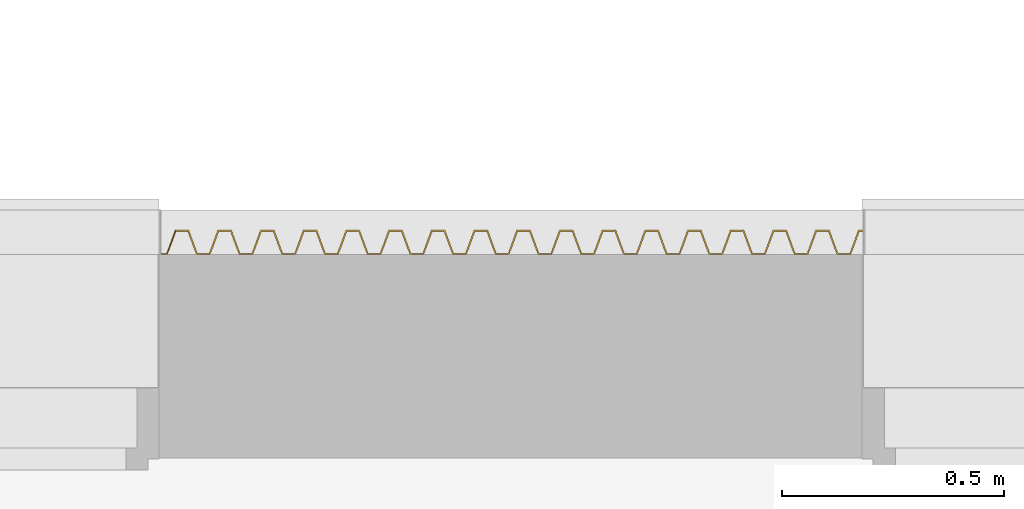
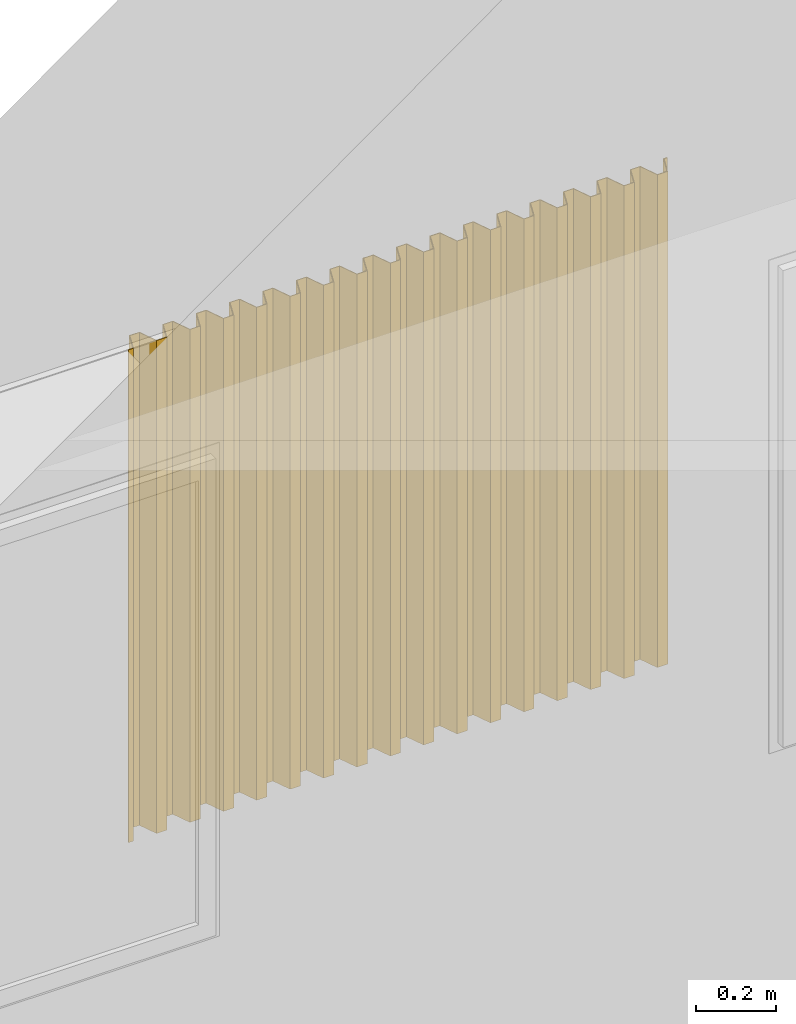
# One storey, part 86 of 91: 1 covering.
"""IFC2X3 building model written with IfcOpenShell, lengths in metres."""

from ifc_helpers import new_model, entity, si_unit, converted_unit, derived_unit, money_unit, direction, frame, origin_with_axes, place, context, subcontext, project, spatial, faceted_brep, material, type_object, element, save


model = new_model("IFC2X3")

# Units and contexts
model_context = context("Model", 3, precision=1e-05, world=origin_with_axes(), true_north=direction((0.0, 1.0)))
body_context = subcontext(model_context, "Body", "Model", "MODEL_VIEW")
ifc_project = project(units=[si_unit("LENGTHUNIT", "METRE"), si_unit("AREAUNIT", "SQUARE_METRE"), si_unit("VOLUMEUNIT", "CUBIC_METRE"), converted_unit("PLANEANGLEUNIT", "DEGREE", entity("IfcPlaneAngleMeasure", 0.0174532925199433), si_unit("PLANEANGLEUNIT", "RADIAN"), dimensions=[0, 0, 0, 0, 0, 0, 0]), money_unit("EUR"), converted_unit("TIMEUNIT", "Year", entity("IfcTimeMeasure", 31557600.0), si_unit("TIMEUNIT", "SECOND"), dimensions=[0, 0, 1, 0, 0, 0, 0]), si_unit("MASSUNIT", "GRAM", prefix="KILO"), si_unit("THERMODYNAMICTEMPERATUREUNIT", "DEGREE_CELSIUS"), si_unit("LUMINOUSINTENSITYUNIT", "LUMEN"), si_unit("ENERGYUNIT", "JOULE", prefix="MEGA"), derived_unit("THERMALCONDUCTANCEUNIT", [(si_unit("POWERUNIT", "WATT"), 1), (si_unit("LENGTHUNIT", "METRE"), -1), (si_unit("THERMODYNAMICTEMPERATUREUNIT", "KELVIN"), -1)]), derived_unit("SPECIFICHEATCAPACITYUNIT", [(si_unit("ENERGYUNIT", "JOULE"), 1), (si_unit("MASSUNIT", "GRAM", prefix="KILO"), -1), (si_unit("THERMODYNAMICTEMPERATUREUNIT", "KELVIN"), -1)]), derived_unit("MASSDENSITYUNIT", [(si_unit("MASSUNIT", "GRAM", prefix="KILO"), 1), (si_unit("VOLUMEUNIT", "CUBIC_METRE"), -1)])], contexts=[model_context])

# Site, building, storey
site_placement = place(None, origin_with_axes())
site = spatial("IfcSite", under=ifc_project, at=site_placement, Name="Site", CompositionType="ELEMENT")
building_placement = place(site_placement, origin_with_axes())
building = spatial("IfcBuilding", under=site, at=building_placement, Name="Bâtiment", CompositionType="ELEMENT")
storey_placement = place(building_placement, origin_with_axes())
storey = spatial("IfcBuildingStorey", under=building, at=storey_placement, Name="RDC", CompositionType="ELEMENT", Elevation=0.0)

# Covering
ifc_material = material(Name="Métal - Acier")
covering_type = type_object("IfcCoveringType", Name="Tôle profilée 27", PredefinedType="NOTDEFINED")
covering_placement = place(storey_placement, frame((56.51607972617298, -10.7997362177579, 1.00281176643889), z_axis=(0.0, 0.0, 1.0), x_axis=(-3.309421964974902e-07, -0.9999999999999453, 0.0)))
element("IfcCovering", 1, at=covering_placement, inside=storey, type_object=covering_type, material=ifc_material, Name="PLACE STATIONNEMENT PMR", PredefinedType="NOTDEFINED", context=body_context, shape_type="Brep", body=[
    faceted_brep([(0.0, 0.0, 0.0), (0.0, 0.01500000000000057, 0.0), (0.0, 0.01500000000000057, 1.498499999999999), (0.0, 0.0, 1.498499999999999), (-0.002, 0.0, 0.0), (-0.001999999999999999, 0.01361121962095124, 0.0), (-0.05399999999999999, 0.03299999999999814, 0.0), (-0.05399999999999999, 0.06299999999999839, 0.0), (-0.001999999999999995, 0.08238878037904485, 0.0), (-0.001999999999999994, 0.1096112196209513, 0.0), (-0.05399999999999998, 0.1289999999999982, 0.0), (-0.05399999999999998, 0.1589999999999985, 0.0), (-0.001999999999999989, 0.1783887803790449, 0.0), (-0.001999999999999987, 0.2056112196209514, 0.0), (-0.05399999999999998, 0.2249999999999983, 0.0), (-0.05399999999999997, 0.2549999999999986, 0.0), (-0.001999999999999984, 0.274388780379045, 0.0), (-0.001999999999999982, 0.3016112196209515, 0.0), (-0.05399999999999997, 0.3209999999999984, 0.0), (-0.05399999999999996, 0.3509999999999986, 0.0), (-0.001999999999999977, 0.3703887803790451, 0.0), (-0.001999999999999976, 0.3976112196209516, 0.0), (-0.05399999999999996, 0.4169999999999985, 0.0), (-0.05399999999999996, 0.4469999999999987, 0.0), (-0.001999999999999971, 0.4663887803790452, 0.0), (-0.00199999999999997, 0.4936112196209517, 0.0), (-0.05399999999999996, 0.5129999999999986, 0.0), (-0.05399999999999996, 0.5429999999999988, 0.0), (-0.001999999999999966, 0.5623887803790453, 0.0), (-0.001999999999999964, 0.5896112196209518, 0.0), (-0.05399999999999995, 0.6089999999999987, 0.0), (-0.05399999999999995, 0.6389999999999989, 0.0), (-0.00199999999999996, 0.6583887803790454, 0.0), (-0.001999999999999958, 0.6856112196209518, 0.0), (-0.05399999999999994, 0.7049999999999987, 0.0), (-0.05399999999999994, 0.734999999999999, 0.0), (-0.001999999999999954, 0.7543887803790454, 0.0), (-0.001999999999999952, 0.7816112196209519, 0.0), (-0.05399999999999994, 0.8009999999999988, 0.0), (-0.05399999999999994, 0.8309999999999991, 0.0), (-0.001999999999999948, 0.8503887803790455, 0.0), (-0.001999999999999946, 0.877611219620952, 0.0), (-0.05399999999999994, 0.8969999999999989, 0.0), (-0.05399999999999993, 0.9269999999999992, 0.0), (-0.001999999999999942, 0.9463887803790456, 0.0), (-0.001999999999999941, 0.9736112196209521, 0.0), (-0.05399999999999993, 0.992999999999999, 0.0), (-0.05399999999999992, 1.022999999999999, 0.0), (-0.001999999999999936, 1.042388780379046, 0.0), (-0.001999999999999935, 1.069611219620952, 0.0), (-0.05399999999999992, 1.088999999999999, 0.0), (-0.05399999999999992, 1.118999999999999, 0.0), (-0.001999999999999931, 1.138388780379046, 0.0), (-0.001999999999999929, 1.165611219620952, 0.0), (-0.05399999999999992, 1.184999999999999, 0.0), (-0.05399999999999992, 1.214999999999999, 0.0), (-0.001999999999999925, 1.234388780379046, 0.0), (-0.001999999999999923, 1.261611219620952, 0.0), (-0.05399999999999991, 1.280999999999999, 0.0), (-0.05399999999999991, 1.310999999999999, 0.0), (-0.001999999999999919, 1.330388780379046, 0.0), (-0.001999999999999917, 1.357611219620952, 0.0), (-0.0539999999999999, 1.376999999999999, 0.0), (-0.0539999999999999, 1.407, 0.0), (-0.001999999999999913, 1.426388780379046, 0.0), (-0.001999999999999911, 1.453611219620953, 0.0), (-0.0539999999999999, 1.472999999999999, 0.0), (-0.0539999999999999, 1.503, 0.0), (-0.001999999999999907, 1.522388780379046, 0.0), (-0.001999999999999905, 1.549611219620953, 0.0), (-0.0539999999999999, 1.569, 0.0), (-0.0539999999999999, 1.579999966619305, 0.0), (-0.0519999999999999, 1.579999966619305, 0.0), (-0.0519999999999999, 1.570388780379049, 0.0), (0.0, 1.551000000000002, 0.0), (0.0, 1.521000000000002, 0.0), (-0.0519999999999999, 1.501611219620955, 0.0), (-0.05199999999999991, 1.474388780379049, 0.0), (0.0, 1.455000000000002, 0.0), (0.0, 1.425000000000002, 0.0), (-0.05199999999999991, 1.405611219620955, 0.0), (-0.05199999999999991, 1.378388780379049, 0.0), (0.0, 1.359000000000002, 0.0), (0.0, 1.329000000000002, 0.0), (-0.05199999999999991, 1.309611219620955, 0.0), (-0.05199999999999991, 1.282388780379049, 0.0), (0.0, 1.263000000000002, 0.0), (0.0, 1.233000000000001, 0.0), (-0.05199999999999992, 1.213611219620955, 0.0), (-0.05199999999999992, 1.186388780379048, 0.0), (0.0, 1.167000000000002, 0.0), (0.0, 1.137000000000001, 0.0), (-0.05199999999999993, 1.117611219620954, 0.0), (-0.05199999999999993, 1.090388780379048, 0.0), (0.0, 1.071000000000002, 0.0), (0.0, 1.041000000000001, 0.0), (-0.05199999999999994, 1.021611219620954, 0.0), (-0.05199999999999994, 0.9943887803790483, 0.0), (0.0, 0.9750000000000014, 0.0), (0.0, 0.9450000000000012, 0.0), (-0.05199999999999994, 0.9256112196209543, 0.0), (-0.05199999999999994, 0.8983887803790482, 0.0), (0.0, 0.8790000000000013, 0.0), (0.0, 0.8490000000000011, 0.0), (-0.05199999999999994, 0.8296112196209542, 0.0), (-0.05199999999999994, 0.8023887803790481, 0.0), (0.0, 0.7830000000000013, 0.0), (0.0, 0.753000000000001, 0.0), (-0.05199999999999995, 0.7336112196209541, 0.0), (-0.05199999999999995, 0.7063887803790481, 0.0), (0.0, 0.6870000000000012, 0.0), (0.0, 0.6570000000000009, 0.0), (-0.05199999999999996, 0.637611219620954, 0.0), (-0.05199999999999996, 0.610388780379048, 0.0), (0.0, 0.5910000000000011, 0.0), (0.0, 0.5610000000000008, 0.0), (-0.05199999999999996, 0.5416112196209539, 0.0), (-0.05199999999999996, 0.5143887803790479, 0.0), (0.0, 0.495000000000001, 0.0), (0.0, 0.4650000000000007, 0.0), (-0.05199999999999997, 0.4456112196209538, 0.0), (-0.05199999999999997, 0.4183887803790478, 0.0), (0.0, 0.3990000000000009, 0.0), (0.0, 0.3690000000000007, 0.0), (-0.05199999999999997, 0.3496112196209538, 0.0), (-0.05199999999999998, 0.3223887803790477, 0.0), (0.0, 0.3030000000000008, 0.0), (0.0, 0.2730000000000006, 0.0), (-0.05199999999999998, 0.2536112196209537, 0.0), (-0.05199999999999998, 0.2263887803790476, 0.0), (0.0, 0.2070000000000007, 0.0), (0.0, 0.1770000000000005, 0.0), (-0.05199999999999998, 0.1576112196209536, 0.0), (-0.05199999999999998, 0.1303887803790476, 0.0), (0.0, 0.1110000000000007, 0.0), (0.0, 0.0810000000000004, 0.0), (-0.05199999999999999, 0.06161121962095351, 0.0), (-0.05199999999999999, 0.03438878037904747, 0.0), (-0.05199999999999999, 0.03438878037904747, 1.498499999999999), (-0.05199999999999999, 0.06161121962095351, 1.498499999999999), (0.0, 0.0810000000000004, 1.498499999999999), (0.0, 0.1110000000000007, 1.498499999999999), (-0.05199999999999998, 0.1303887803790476, 1.498499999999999), (-0.05199999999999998, 0.1576112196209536, 1.498499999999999), (0.0, 0.1770000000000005, 1.498499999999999), (0.0, 0.2070000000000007, 1.498499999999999), (-0.05199999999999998, 0.2263887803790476, 1.498499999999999), (-0.05199999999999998, 0.2536112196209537, 1.498499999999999), (0.0, 0.2730000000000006, 1.498499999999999), (0.0, 0.3030000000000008, 1.498499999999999), (-0.05199999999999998, 0.3223887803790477, 1.498499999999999), (-0.05199999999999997, 0.3496112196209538, 1.498499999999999), (0.0, 0.3690000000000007, 1.498499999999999), (0.0, 0.3990000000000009, 1.498499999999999), (-0.05199999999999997, 0.4183887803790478, 1.498499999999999), (-0.05199999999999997, 0.4456112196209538, 1.498499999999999), (0.0, 0.4650000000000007, 1.498499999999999), (0.0, 0.495000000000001, 1.498499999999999), (-0.05199999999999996, 0.5143887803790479, 1.498499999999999), (-0.05199999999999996, 0.5416112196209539, 1.498499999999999), (0.0, 0.5610000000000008, 1.498499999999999), (0.0, 0.5910000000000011, 1.498499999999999), (-0.05199999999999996, 0.610388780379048, 1.498499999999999), (-0.05199999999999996, 0.637611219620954, 1.498499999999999), (0.0, 0.6570000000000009, 1.498499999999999), (0.0, 0.6870000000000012, 1.498499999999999), (-0.05199999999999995, 0.7063887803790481, 1.498499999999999), (-0.05199999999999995, 0.7336112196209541, 1.498499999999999), (0.0, 0.753000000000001, 1.498499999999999), (0.0, 0.7830000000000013, 1.498499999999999), (-0.05199999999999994, 0.8023887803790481, 1.498499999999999), (-0.05199999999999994, 0.8296112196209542, 1.498499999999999), (0.0, 0.8490000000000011, 1.498499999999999), (0.0, 0.8790000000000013, 1.498499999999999), (-0.05199999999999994, 0.8983887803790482, 1.498499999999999), (-0.05199999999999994, 0.9256112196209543, 1.498499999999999), (0.0, 0.9450000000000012, 1.498499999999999), (0.0, 0.9750000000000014, 1.498499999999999), (-0.05199999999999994, 0.9943887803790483, 1.498499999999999), (-0.05199999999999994, 1.021611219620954, 1.498499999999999), (0.0, 1.041000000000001, 1.498499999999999), (0.0, 1.071000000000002, 1.498499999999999), (-0.05199999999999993, 1.090388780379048, 1.498499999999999), (-0.05199999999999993, 1.117611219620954, 1.498499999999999), (0.0, 1.137000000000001, 1.498499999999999), (0.0, 1.167000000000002, 1.498499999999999), (-0.05199999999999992, 1.186388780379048, 1.498499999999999), (-0.05199999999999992, 1.213611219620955, 1.498499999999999), (0.0, 1.233000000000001, 1.498499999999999), (0.0, 1.263000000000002, 1.498499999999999), (-0.05199999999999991, 1.282388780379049, 1.498499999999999), (-0.05199999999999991, 1.309611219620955, 1.498499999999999), (0.0, 1.329000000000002, 1.498499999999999), (0.0, 1.359000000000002, 1.498499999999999), (-0.05199999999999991, 1.378388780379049, 1.498499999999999), (-0.05199999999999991, 1.405611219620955, 1.498499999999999), (0.0, 1.425000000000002, 1.498499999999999), (0.0, 1.455000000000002, 1.498499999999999), (-0.05199999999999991, 1.474388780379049, 1.498499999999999), (-0.0519999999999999, 1.501611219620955, 1.498499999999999), (0.0, 1.521000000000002, 1.498499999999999), (0.0, 1.551000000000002, 1.498499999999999), (-0.0519999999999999, 1.570388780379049, 1.498499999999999), (-0.0519999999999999, 1.579999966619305, 1.498499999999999), (-0.0539999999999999, 1.579999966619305, 1.498499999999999), (-0.0539999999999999, 1.569, 1.498499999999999), (-0.001999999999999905, 1.549611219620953, 1.498499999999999), (-0.001999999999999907, 1.522388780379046, 1.498499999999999), (-0.0539999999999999, 1.503, 1.498499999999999), (-0.0539999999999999, 1.472999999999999, 1.498499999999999), (-0.001999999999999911, 1.453611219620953, 1.498499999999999), (-0.001999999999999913, 1.426388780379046, 1.498499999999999), (-0.0539999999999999, 1.407, 1.498499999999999), (-0.0539999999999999, 1.376999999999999, 1.498499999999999), (-0.001999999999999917, 1.357611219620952, 1.498499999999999), (-0.001999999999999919, 1.330388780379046, 1.498499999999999), (-0.05399999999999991, 1.310999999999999, 1.498499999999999), (-0.05399999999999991, 1.280999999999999, 1.498499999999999), (-0.001999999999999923, 1.261611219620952, 1.498499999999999), (-0.001999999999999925, 1.234388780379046, 1.498499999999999), (-0.05399999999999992, 1.214999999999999, 1.498499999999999), (-0.05399999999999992, 1.184999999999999, 1.498499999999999), (-0.001999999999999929, 1.165611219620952, 1.498499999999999), (-0.001999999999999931, 1.138388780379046, 1.498499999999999), (-0.05399999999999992, 1.118999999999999, 1.498499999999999), (-0.05399999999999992, 1.088999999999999, 1.498499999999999), (-0.001999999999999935, 1.069611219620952, 1.498499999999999), (-0.001999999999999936, 1.042388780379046, 1.498499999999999), (-0.05399999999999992, 1.022999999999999, 1.498499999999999), (-0.05399999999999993, 0.992999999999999, 1.498499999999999), (-0.001999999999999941, 0.9736112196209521, 1.498499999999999), (-0.001999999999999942, 0.9463887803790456, 1.498499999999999), (-0.05399999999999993, 0.9269999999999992, 1.498499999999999), (-0.05399999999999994, 0.8969999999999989, 1.498499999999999), (-0.001999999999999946, 0.877611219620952, 1.498499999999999), (-0.001999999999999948, 0.8503887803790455, 1.498499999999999), (-0.05399999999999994, 0.8309999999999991, 1.498499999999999), (-0.05399999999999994, 0.8009999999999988, 1.498499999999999), (-0.001999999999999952, 0.7816112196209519, 1.498499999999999), (-0.001999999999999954, 0.7543887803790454, 1.498499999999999), (-0.05399999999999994, 0.734999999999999, 1.498499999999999), (-0.05399999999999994, 0.7049999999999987, 1.498499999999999), (-0.001999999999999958, 0.6856112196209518, 1.498499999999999), (-0.00199999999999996, 0.6583887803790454, 1.498499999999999), (-0.05399999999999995, 0.6389999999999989, 1.498499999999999), (-0.05399999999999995, 0.6089999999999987, 1.498499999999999), (-0.001999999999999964, 0.5896112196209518, 1.498499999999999), (-0.001999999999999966, 0.5623887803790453, 1.498499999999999), (-0.05399999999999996, 0.5429999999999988, 1.498499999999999), (-0.05399999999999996, 0.5129999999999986, 1.498499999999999), (-0.00199999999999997, 0.4936112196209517, 1.498499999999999), (-0.001999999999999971, 0.4663887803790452, 1.498499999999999), (-0.05399999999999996, 0.4469999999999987, 1.498499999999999), (-0.05399999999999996, 0.4169999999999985, 1.498499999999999), (-0.001999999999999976, 0.3976112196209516, 1.498499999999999), (-0.001999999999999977, 0.3703887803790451, 1.498499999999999), (-0.05399999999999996, 0.3509999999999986, 1.498499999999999), (-0.05399999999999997, 0.3209999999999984, 1.498499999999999), (-0.001999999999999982, 0.3016112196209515, 1.498499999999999), (-0.001999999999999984, 0.274388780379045, 1.498499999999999), (-0.05399999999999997, 0.2549999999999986, 1.498499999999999), (-0.05399999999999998, 0.2249999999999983, 1.498499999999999), (-0.001999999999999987, 0.2056112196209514, 1.498499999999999), (-0.001999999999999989, 0.1783887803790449, 1.498499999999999), (-0.05399999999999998, 0.1589999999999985, 1.498499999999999), (-0.05399999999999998, 0.1289999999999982, 1.498499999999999), (-0.001999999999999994, 0.1096112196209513, 1.498499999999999), (-0.001999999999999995, 0.08238878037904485, 1.498499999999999), (-0.05399999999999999, 0.06299999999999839, 1.498499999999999), (-0.05399999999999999, 0.03299999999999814, 1.498499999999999), (-0.001999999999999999, 0.01361121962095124, 1.498499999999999), (-0.002, 0.0, 1.498499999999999)], [[[0, 1, 2, 3]], [[4, 5, 6, 7, 8, 9, 10, 11, 12, 13, 14, 15, 16, 17, 18, 19, 20, 21, 22, 23, 24, 25, 26, 27, 28, 29, 30, 31, 32, 33, 34, 35, 36, 37, 38, 39, 40, 41, 42, 43, 44, 45, 46, 47, 48, 49, 50, 51, 52, 53, 54, 55, 56, 57, 58, 59, 60, 61, 62, 63, 64, 65, 66, 67, 68, 69, 70, 71, 72, 73, 74, 75, 76, 77, 78, 79, 80, 81, 82, 83, 84, 85, 86, 87, 88, 89, 90, 91, 92, 93, 94, 95, 96, 97, 98, 99, 100, 101, 102, 103, 104, 105, 106, 107, 108, 109, 110, 111, 112, 113, 114, 115, 116, 117, 118, 119, 120, 121, 122, 123, 124, 125, 126, 127, 128, 129, 130, 131, 132, 133, 134, 135, 136, 137, 1, 0]], [[1, 137, 138, 2]], [[2, 138, 139, 140, 141, 142, 143, 144, 145, 146, 147, 148, 149, 150, 151, 152, 153, 154, 155, 156, 157, 158, 159, 160, 161, 162, 163, 164, 165, 166, 167, 168, 169, 170, 171, 172, 173, 174, 175, 176, 177, 178, 179, 180, 181, 182, 183, 184, 185, 186, 187, 188, 189, 190, 191, 192, 193, 194, 195, 196, 197, 198, 199, 200, 201, 202, 203, 204, 205, 206, 207, 208, 209, 210, 211, 212, 213, 214, 215, 216, 217, 218, 219, 220, 221, 222, 223, 224, 225, 226, 227, 228, 229, 230, 231, 232, 233, 234, 235, 236, 237, 238, 239, 240, 241, 242, 243, 244, 245, 246, 247, 248, 249, 250, 251, 252, 253, 254, 255, 256, 257, 258, 259, 260, 261, 262, 263, 264, 265, 266, 267, 268, 269, 270, 271, 3]], [[0, 3, 271, 4]], [[5, 4, 271, 270]], [[6, 5, 270, 269]], [[7, 6, 269, 268]], [[8, 7, 268, 267]], [[9, 8, 267, 266]], [[10, 9, 266, 265]], [[11, 10, 265, 264]], [[12, 11, 264, 263]], [[13, 12, 263, 262]], [[14, 13, 262, 261]], [[15, 14, 261, 260]], [[16, 15, 260, 259]], [[17, 16, 259, 258]], [[18, 17, 258, 257]], [[19, 18, 257, 256]], [[20, 19, 256, 255]], [[21, 20, 255, 254]], [[22, 21, 254, 253]], [[23, 22, 253, 252]], [[24, 23, 252, 251]], [[25, 24, 251, 250]], [[26, 25, 250, 249]], [[27, 26, 249, 248]], [[28, 27, 248, 247]], [[29, 28, 247, 246]], [[30, 29, 246, 245]], [[31, 30, 245, 244]], [[32, 31, 244, 243]], [[33, 32, 243, 242]], [[34, 33, 242, 241]], [[35, 34, 241, 240]], [[36, 35, 240, 239]], [[37, 36, 239, 238]], [[38, 37, 238, 237]], [[39, 38, 237, 236]], [[40, 39, 236, 235]], [[41, 40, 235, 234]], [[42, 41, 234, 233]], [[43, 42, 233, 232]], [[44, 43, 232, 231]], [[45, 44, 231, 230]], [[46, 45, 230, 229]], [[47, 46, 229, 228]], [[48, 47, 228, 227]], [[49, 48, 227, 226]], [[50, 49, 226, 225]], [[51, 50, 225, 224]], [[52, 51, 224, 223]], [[53, 52, 223, 222]], [[54, 53, 222, 221]], [[55, 54, 221, 220]], [[56, 55, 220, 219]], [[57, 56, 219, 218]], [[58, 57, 218, 217]], [[59, 58, 217, 216]], [[60, 59, 216, 215]], [[61, 60, 215, 214]], [[62, 61, 214, 213]], [[63, 62, 213, 212]], [[64, 63, 212, 211]], [[65, 64, 211, 210]], [[66, 65, 210, 209]], [[67, 66, 209, 208]], [[68, 67, 208, 207]], [[69, 68, 207, 206]], [[70, 69, 206, 205]], [[71, 70, 205, 204]], [[72, 71, 204, 203]], [[73, 72, 203, 202]], [[74, 73, 202, 201]], [[75, 74, 201, 200]], [[76, 75, 200, 199]], [[77, 76, 199, 198]], [[78, 77, 198, 197]], [[79, 78, 197, 196]], [[80, 79, 196, 195]], [[81, 80, 195, 194]], [[82, 81, 194, 193]], [[83, 82, 193, 192]], [[84, 83, 192, 191]], [[85, 84, 191, 190]], [[86, 85, 190, 189]], [[87, 86, 189, 188]], [[88, 87, 188, 187]], [[89, 88, 187, 186]], [[90, 89, 186, 185]], [[91, 90, 185, 184]], [[92, 91, 184, 183]], [[93, 92, 183, 182]], [[94, 93, 182, 181]], [[95, 94, 181, 180]], [[96, 95, 180, 179]], [[97, 96, 179, 178]], [[98, 97, 178, 177]], [[99, 98, 177, 176]], [[100, 99, 176, 175]], [[101, 100, 175, 174]], [[102, 101, 174, 173]], [[103, 102, 173, 172]], [[104, 103, 172, 171]], [[105, 104, 171, 170]], [[106, 105, 170, 169]], [[107, 106, 169, 168]], [[108, 107, 168, 167]], [[109, 108, 167, 166]], [[110, 109, 166, 165]], [[111, 110, 165, 164]], [[112, 111, 164, 163]], [[113, 112, 163, 162]], [[114, 113, 162, 161]], [[115, 114, 161, 160]], [[116, 115, 160, 159]], [[117, 116, 159, 158]], [[118, 117, 158, 157]], [[119, 118, 157, 156]], [[120, 119, 156, 155]], [[121, 120, 155, 154]], [[122, 121, 154, 153]], [[123, 122, 153, 152]], [[124, 123, 152, 151]], [[125, 124, 151, 150]], [[126, 125, 150, 149]], [[127, 126, 149, 148]], [[128, 127, 148, 147]], [[129, 128, 147, 146]], [[130, 129, 146, 145]], [[131, 130, 145, 144]], [[132, 131, 144, 143]], [[133, 132, 143, 142]], [[134, 133, 142, 141]], [[135, 134, 141, 140]], [[136, 135, 140, 139]], [[137, 136, 139, 138]]]),
])

save(model, "model.ifc")
